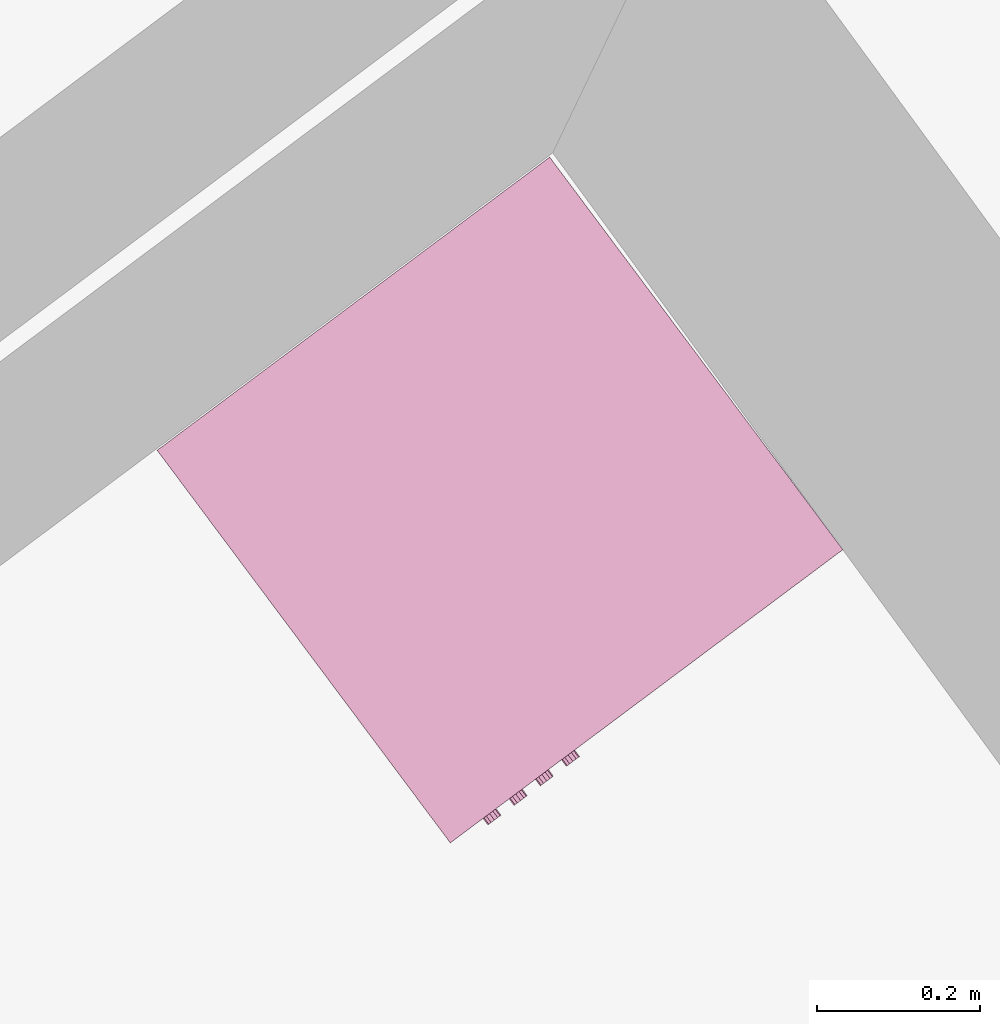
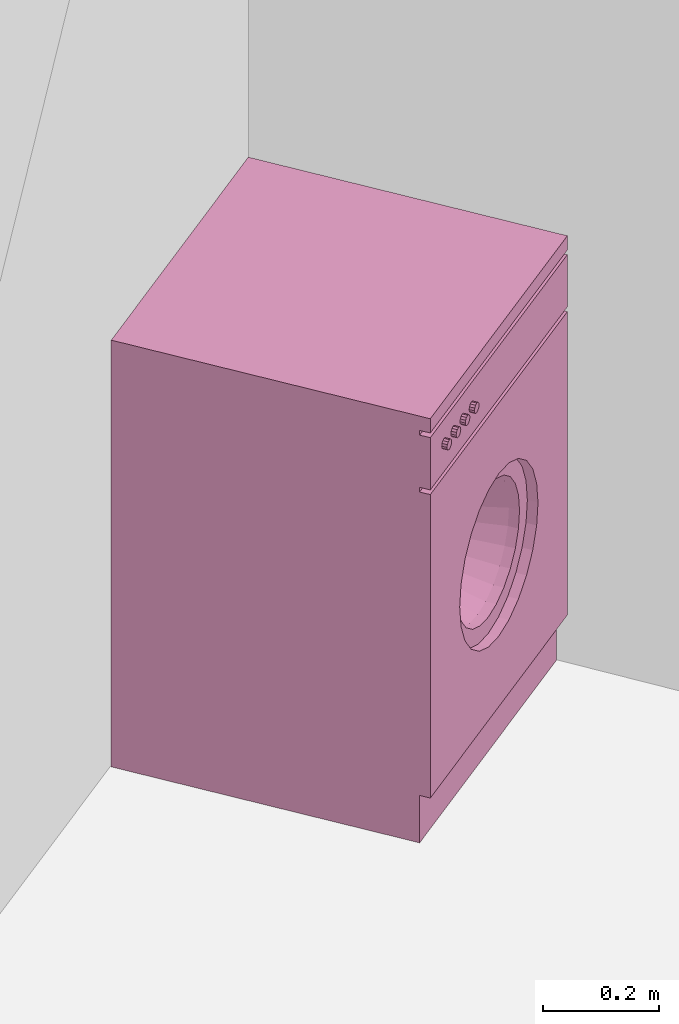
# One storey, part 101 of 121: 1 furnishing.
"""IFC2X3 building model written with IfcOpenShell, lengths in metres."""

from ifc_helpers import new_model, entity, si_unit, converted_unit, derived_unit, money_unit, direction, frame, origin_with_axes, place, context, subcontext, project, spatial, open_shell, faceted_brep, surface_model, source, transform, mapped, type_object, element, save


model = new_model("IFC2X3")

# Units and contexts
model_context = context("Model", 3, precision=1e-05, world=origin_with_axes(), true_north=direction((0.0, 1.0)))
body_context = subcontext(model_context, "Body", "Model", "MODEL_VIEW")
ifc_project = project(units=[si_unit("LENGTHUNIT", "METRE"), si_unit("AREAUNIT", "SQUARE_METRE"), si_unit("VOLUMEUNIT", "CUBIC_METRE"), converted_unit("PLANEANGLEUNIT", "DEGREE", entity("IfcPlaneAngleMeasure", 0.0174532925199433), si_unit("PLANEANGLEUNIT", "RADIAN"), dimensions=[0, 0, 0, 0, 0, 0, 0]), money_unit("CHF"), converted_unit("TIMEUNIT", "Year", entity("IfcTimeMeasure", 31557600.0), si_unit("TIMEUNIT", "SECOND"), dimensions=[0, 0, 1, 0, 0, 0, 0]), si_unit("MASSUNIT", "GRAM", prefix="KILO"), si_unit("THERMODYNAMICTEMPERATUREUNIT", "DEGREE_CELSIUS"), si_unit("LUMINOUSINTENSITYUNIT", "LUMEN"), si_unit("ENERGYUNIT", "JOULE", prefix="MEGA"), derived_unit("THERMALCONDUCTANCEUNIT", [(si_unit("POWERUNIT", "WATT"), 1), (si_unit("LENGTHUNIT", "METRE"), -1), (si_unit("THERMODYNAMICTEMPERATUREUNIT", "KELVIN"), -1)]), derived_unit("SPECIFICHEATCAPACITYUNIT", [(si_unit("ENERGYUNIT", "JOULE"), 1), (si_unit("MASSUNIT", "GRAM", prefix="KILO"), -1), (si_unit("THERMODYNAMICTEMPERATUREUNIT", "KELVIN"), -1)]), derived_unit("MASSDENSITYUNIT", [(si_unit("MASSUNIT", "GRAM", prefix="KILO"), 1), (si_unit("VOLUMEUNIT", "CUBIC_METRE"), -1)])], contexts=[model_context])

# Site, building, storey
site_placement = place(None, origin_with_axes())
site = spatial("IfcSite", under=ifc_project, at=site_placement, Name="Site", CompositionType="ELEMENT")
building_placement = place(site_placement, origin_with_axes())
building = spatial("IfcBuilding", under=site, at=building_placement, Name="Bâtiment", CompositionType="ELEMENT")
storey_placement = place(building_placement, frame((0.0, 0.0, 2.75), z_axis=(0.0, 0.0, 1.0), x_axis=(1.0, 0.0, 0.0)))
storey = spatial("IfcBuildingStorey", under=building, at=storey_placement, Name="Etage 1", CompositionType="ELEMENT", Elevation=2.75)

# Furnishing
furnishing_element_type = type_object("IfcFurnishingElementType", Name="Machine à laver")
shared_shape = source(origin_with_axes(), body_context, "Body", "SurfaceModel", [
    faceted_brep([(0.0, 0.02, 0.1), (0.6, 0.02, 0.1), (0.6, 0.0, 0.1), (0.0, 0.0, 0.1), (0.0, 0.02000000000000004, 0.74), (0.6, 0.02000000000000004, 0.74), (0.4714285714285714, 0.02000000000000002, 0.42), (0.4655872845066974, 0.02000000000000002, 0.4643689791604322), (0.448461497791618, 0.02000000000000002, 0.5057142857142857), (0.4212183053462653, 0.02000000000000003, 0.5412183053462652), (0.3857142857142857, 0.02000000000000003, 0.568461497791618), (0.3443689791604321, 0.02000000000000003, 0.5855872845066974), (0.3, 0.02000000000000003, 0.5914285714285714), (0.2556310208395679, 0.02000000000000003, 0.5855872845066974), (0.2142857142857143, 0.02000000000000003, 0.5684614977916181), (0.1787816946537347, 0.02000000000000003, 0.5412183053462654), (0.1515385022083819, 0.02000000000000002, 0.5057142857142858), (0.1344127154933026, 0.02000000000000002, 0.4643689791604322), (0.1285714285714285, 0.02000000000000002, 0.42), (0.1344127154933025, 0.02000000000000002, 0.3756310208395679), (0.1515385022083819, 0.02000000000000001, 0.3342857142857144), (0.1787816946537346, 0.02000000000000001, 0.2987816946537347), (0.2142857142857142, 0.02000000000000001, 0.2715385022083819), (0.2556310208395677, 0.02000000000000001, 0.2544127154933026), (0.2999999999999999, 0.02000000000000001, 0.2485714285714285), (0.344368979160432, 0.02000000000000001, 0.2544127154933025), (0.3857142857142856, 0.02000000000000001, 0.2715385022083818), (0.4212183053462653, 0.02000000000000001, 0.2987816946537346), (0.448461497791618, 0.02000000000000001, 0.3342857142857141), (0.4655872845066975, 0.02000000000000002, 0.3756310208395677), (0.6, 0.0, 0.74), (0.0, 0.0, 0.74), (0.4714285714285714, 0.0, 0.42), (0.4655872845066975, 0.0, 0.3756310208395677), (0.448461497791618, 0.0, 0.3342857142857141), (0.4212183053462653, 0.0, 0.2987816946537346), (0.3857142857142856, 0.0, 0.2715385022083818), (0.344368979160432, 0.0, 0.2544127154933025), (0.2999999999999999, 0.0, 0.2485714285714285), (0.2556310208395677, 0.0, 0.2544127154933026), (0.2142857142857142, 0.0, 0.2715385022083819), (0.1787816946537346, 0.0, 0.2987816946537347), (0.1515385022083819, 0.0, 0.3342857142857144), (0.1344127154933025, 0.0, 0.3756310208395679), (0.1285714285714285, 0.0, 0.42), (0.1344127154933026, 0.0, 0.4643689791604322), (0.1515385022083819, 0.0, 0.5057142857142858), (0.1787816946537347, 0.0, 0.5412183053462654), (0.2142857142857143, 0.0, 0.5684614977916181), (0.2556310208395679, 0.0, 0.5855872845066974), (0.3, 0.0, 0.5914285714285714), (0.3443689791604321, 0.0, 0.5855872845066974), (0.3857142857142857, 0.0, 0.568461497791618), (0.4212183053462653, 0.0, 0.5412183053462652), (0.448461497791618, 0.0, 0.5057142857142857), (0.4655872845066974, 0.0, 0.4643689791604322)], [[[0, 1, 2, 3]], [[0, 4, 5, 1], [6, 7, 8, 9, 10, 11, 12, 13, 14, 15, 16, 17, 18, 19, 20, 21, 22, 23, 24, 25, 26, 27, 28, 29]], [[1, 5, 30, 2]], [[3, 2, 30, 31], [32, 33, 34, 35, 36, 37, 38, 39, 40, 41, 42, 43, 44, 45, 46, 47, 48, 49, 50, 51, 52, 53, 54, 55]], [[4, 0, 3, 31]], [[5, 4, 31, 30]], [[7, 6, 32, 55]], [[8, 7, 55, 54]], [[9, 8, 54, 53]], [[10, 9, 53, 52]], [[11, 10, 52, 51]], [[12, 11, 51, 50]], [[13, 12, 50, 49]], [[14, 13, 49, 48]], [[15, 14, 48, 47]], [[16, 15, 47, 46]], [[17, 16, 46, 45]], [[18, 17, 45, 44]], [[19, 18, 44, 43]], [[20, 19, 43, 42]], [[21, 20, 42, 41]], [[22, 21, 41, 40]], [[23, 22, 40, 39]], [[24, 23, 39, 38]], [[25, 24, 38, 37]], [[26, 25, 37, 36]], [[27, 26, 36, 35]], [[28, 27, 35, 34]], [[29, 28, 34, 33]], [[6, 29, 33, 32]]]),
    faceted_brep([(0.4714285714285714, 0.04000000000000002, 0.42), (0.4655872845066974, 0.04000000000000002, 0.4643689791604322), (0.4655872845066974, 0.02000000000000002, 0.4643689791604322), (0.4714285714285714, 0.02000000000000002, 0.42), (0.4655872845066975, 0.04000000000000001, 0.3756310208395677), (0.448461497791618, 0.04000000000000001, 0.3342857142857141), (0.4212183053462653, 0.04000000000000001, 0.2987816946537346), (0.3857142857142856, 0.04000000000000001, 0.2715385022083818), (0.344368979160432, 0.04000000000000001, 0.2544127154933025), (0.2999999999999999, 0.04000000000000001, 0.2485714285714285), (0.2556310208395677, 0.04000000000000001, 0.2544127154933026), (0.2142857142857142, 0.04000000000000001, 0.2715385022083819), (0.1787816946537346, 0.04000000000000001, 0.2987816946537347), (0.1515385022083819, 0.04000000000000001, 0.3342857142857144), (0.1344127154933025, 0.04000000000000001, 0.3756310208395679), (0.1285714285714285, 0.04000000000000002, 0.42), (0.1344127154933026, 0.04000000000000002, 0.4643689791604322), (0.1515385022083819, 0.04000000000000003, 0.5057142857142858), (0.1787816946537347, 0.04000000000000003, 0.5412183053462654), (0.2142857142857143, 0.04000000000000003, 0.5684614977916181), (0.2556310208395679, 0.04000000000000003, 0.5855872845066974), (0.3, 0.04000000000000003, 0.5914285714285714), (0.3443689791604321, 0.04000000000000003, 0.5855872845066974), (0.3857142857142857, 0.04000000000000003, 0.568461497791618), (0.4212183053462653, 0.04000000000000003, 0.5412183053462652), (0.448461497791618, 0.04000000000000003, 0.5057142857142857), (0.4371428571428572, 0.04000000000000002, 0.42), (0.432469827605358, 0.04000000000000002, 0.4554951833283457), (0.4187691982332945, 0.04000000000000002, 0.4885714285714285), (0.3969746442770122, 0.04000000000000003, 0.5169746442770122), (0.3685714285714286, 0.04000000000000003, 0.5387691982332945), (0.3354951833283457, 0.04000000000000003, 0.552469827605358), (0.3, 0.04000000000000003, 0.5571428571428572), (0.2645048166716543, 0.04000000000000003, 0.552469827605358), (0.2314285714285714, 0.04000000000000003, 0.5387691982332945), (0.2030253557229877, 0.04000000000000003, 0.5169746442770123), (0.1812308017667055, 0.04000000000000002, 0.4885714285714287), (0.167530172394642, 0.04000000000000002, 0.4554951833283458), (0.1628571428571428, 0.04000000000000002, 0.42), (0.167530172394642, 0.04000000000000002, 0.3845048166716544), (0.1812308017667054, 0.04000000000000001, 0.3514285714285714), (0.2030253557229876, 0.04000000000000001, 0.3230253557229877), (0.2314285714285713, 0.04000000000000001, 0.3012308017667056), (0.2645048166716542, 0.04000000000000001, 0.287530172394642), (0.2999999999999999, 0.04000000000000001, 0.2828571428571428), (0.3354951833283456, 0.04000000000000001, 0.287530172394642), (0.3685714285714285, 0.04000000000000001, 0.3012308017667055), (0.3969746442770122, 0.04000000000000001, 0.3230253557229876), (0.4187691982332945, 0.04000000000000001, 0.3514285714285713), (0.432469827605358, 0.04000000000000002, 0.3845048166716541), (0.448461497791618, 0.02000000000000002, 0.5057142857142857), (0.4212183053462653, 0.02000000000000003, 0.5412183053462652), (0.3857142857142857, 0.02000000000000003, 0.568461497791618), (0.3443689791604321, 0.02000000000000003, 0.5855872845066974), (0.3, 0.02000000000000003, 0.5914285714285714), (0.2556310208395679, 0.02000000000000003, 0.5855872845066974), (0.2142857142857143, 0.02000000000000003, 0.5684614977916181), (0.1787816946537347, 0.02000000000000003, 0.5412183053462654), (0.1515385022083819, 0.02000000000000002, 0.5057142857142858), (0.1344127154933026, 0.02000000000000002, 0.4643689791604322), (0.1285714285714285, 0.02000000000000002, 0.42), (0.1344127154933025, 0.02000000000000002, 0.3756310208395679), (0.1515385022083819, 0.02000000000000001, 0.3342857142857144), (0.1787816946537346, 0.02000000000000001, 0.2987816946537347), (0.2142857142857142, 0.02000000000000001, 0.2715385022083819), (0.2556310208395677, 0.02000000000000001, 0.2544127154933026), (0.2999999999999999, 0.02000000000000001, 0.2485714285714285), (0.344368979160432, 0.02000000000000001, 0.2544127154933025), (0.3857142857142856, 0.02000000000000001, 0.2715385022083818), (0.4212183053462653, 0.02000000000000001, 0.2987816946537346), (0.448461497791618, 0.02000000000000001, 0.3342857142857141), (0.4655872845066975, 0.02000000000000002, 0.3756310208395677), (0.4371428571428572, 0.02000000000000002, 0.42), (0.432469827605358, 0.02000000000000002, 0.3845048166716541), (0.4187691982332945, 0.02000000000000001, 0.3514285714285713), (0.3969746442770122, 0.02000000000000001, 0.3230253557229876), (0.3685714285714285, 0.02000000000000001, 0.3012308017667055), (0.3354951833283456, 0.02000000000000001, 0.287530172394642), (0.2999999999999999, 0.02000000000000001, 0.2828571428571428), (0.2645048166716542, 0.02000000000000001, 0.287530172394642), (0.2314285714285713, 0.02000000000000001, 0.3012308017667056), (0.2030253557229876, 0.02000000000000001, 0.3230253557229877), (0.1812308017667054, 0.02000000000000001, 0.3514285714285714), (0.167530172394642, 0.02000000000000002, 0.3845048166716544), (0.1628571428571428, 0.02000000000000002, 0.42), (0.167530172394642, 0.02000000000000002, 0.4554951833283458), (0.1812308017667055, 0.02000000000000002, 0.4885714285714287), (0.2030253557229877, 0.02000000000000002, 0.5169746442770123), (0.2314285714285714, 0.02000000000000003, 0.5387691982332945), (0.2645048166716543, 0.02000000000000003, 0.552469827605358), (0.3, 0.02000000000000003, 0.5571428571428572), (0.3354951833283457, 0.02000000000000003, 0.552469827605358), (0.3685714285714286, 0.02000000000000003, 0.5387691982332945), (0.3969746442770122, 0.02000000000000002, 0.5169746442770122), (0.4187691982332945, 0.02000000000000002, 0.4885714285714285), (0.432469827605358, 0.02000000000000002, 0.4554951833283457)], [[[0, 1, 2, 3]], [[0, 4, 5, 6, 7, 8, 9, 10, 11, 12, 13, 14, 15, 16, 17, 18, 19, 20, 21, 22, 23, 24, 25, 1], [26, 27, 28, 29, 30, 31, 32, 33, 34, 35, 36, 37, 38, 39, 40, 41, 42, 43, 44, 45, 46, 47, 48, 49]], [[1, 25, 50, 2]], [[3, 2, 50, 51, 52, 53, 54, 55, 56, 57, 58, 59, 60, 61, 62, 63, 64, 65, 66, 67, 68, 69, 70, 71], [72, 73, 74, 75, 76, 77, 78, 79, 80, 81, 82, 83, 84, 85, 86, 87, 88, 89, 90, 91, 92, 93, 94, 95]], [[4, 0, 3, 71]], [[5, 4, 71, 70]], [[6, 5, 70, 69]], [[7, 6, 69, 68]], [[8, 7, 68, 67]], [[9, 8, 67, 66]], [[10, 9, 66, 65]], [[11, 10, 65, 64]], [[12, 11, 64, 63]], [[13, 12, 63, 62]], [[14, 13, 62, 61]], [[15, 14, 61, 60]], [[16, 15, 60, 59]], [[17, 16, 59, 58]], [[18, 17, 58, 57]], [[19, 18, 57, 56]], [[20, 19, 56, 55]], [[21, 20, 55, 54]], [[22, 21, 54, 53]], [[23, 22, 53, 52]], [[24, 23, 52, 51]], [[25, 24, 51, 50]], [[27, 26, 72, 95]], [[28, 27, 95, 94]], [[29, 28, 94, 93]], [[30, 29, 93, 92]], [[31, 30, 92, 91]], [[32, 31, 91, 90]], [[33, 32, 90, 89]], [[34, 33, 89, 88]], [[35, 34, 88, 87]], [[36, 35, 87, 86]], [[37, 36, 86, 85]], [[38, 37, 85, 84]], [[39, 38, 84, 83]], [[40, 39, 83, 82]], [[41, 40, 82, 81]], [[42, 41, 81, 80]], [[43, 42, 80, 79]], [[44, 43, 79, 78]], [[45, 44, 78, 77]], [[46, 45, 77, 76]], [[47, 46, 76, 75]], [[48, 47, 75, 74]], [[49, 48, 74, 73]], [[26, 49, 73, 72]]]),
    surface_model("IfcShellBasedSurfaceModel", [(0.2645048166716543, 0.03999999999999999, 0.552469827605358), (0.3, 0.03999999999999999, 0.5571428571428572), (0.3, 0.14, 0.5228571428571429), (0.2733786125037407, 0.14, 0.5193523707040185), (0.3354951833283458, 0.03999999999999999, 0.552469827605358), (0.3266213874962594, 0.14, 0.5193523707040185), (0.3514285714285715, 0.14, 0.5090768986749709), (0.3727309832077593, 0.14, 0.4927309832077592), (0.3890768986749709, 0.14, 0.4714285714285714), (0.3993523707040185, 0.14, 0.4466213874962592), (0.4028571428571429, 0.14, 0.42), (0.3993523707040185, 0.14, 0.3933786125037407), (0.3890768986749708, 0.14, 0.3685714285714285), (0.3727309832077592, 0.14, 0.3472690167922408), (0.3514285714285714, 0.14, 0.3309231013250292), (0.3266213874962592, 0.14, 0.3206476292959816), (0.2999999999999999, 0.14, 0.3171428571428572), (0.2733786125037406, 0.14, 0.3206476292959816), (0.2485714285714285, 0.14, 0.3309231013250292), (0.2272690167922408, 0.14, 0.3472690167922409), (0.2109231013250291, 0.14, 0.3685714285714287), (0.2006476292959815, 0.14, 0.3933786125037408), (0.1971428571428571, 0.14, 0.4200000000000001), (0.2006476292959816, 0.14, 0.4466213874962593), (0.2109231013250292, 0.14, 0.4714285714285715), (0.2272690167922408, 0.14, 0.4927309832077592), (0.2485714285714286, 0.14, 0.5090768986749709), (0.2314285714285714, 0.03999999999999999, 0.5387691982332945), (0.3685714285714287, 0.03999999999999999, 0.5387691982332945), (0.3969746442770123, 0.03999999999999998, 0.5169746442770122), (0.4187691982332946, 0.03999999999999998, 0.4885714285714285), (0.432469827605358, 0.03999999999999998, 0.4554951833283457), (0.4371428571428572, 0.03999999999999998, 0.4199999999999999), (0.432469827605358, 0.03999999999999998, 0.3845048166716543), (0.4187691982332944, 0.03999999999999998, 0.3514285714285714), (0.3969746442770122, 0.03999999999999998, 0.3230253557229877), (0.3685714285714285, 0.03999999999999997, 0.3012308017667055), (0.3354951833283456, 0.03999999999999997, 0.2875301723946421), (0.2999999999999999, 0.03999999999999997, 0.2828571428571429), (0.2645048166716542, 0.03999999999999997, 0.2875301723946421), (0.2314285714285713, 0.03999999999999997, 0.3012308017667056), (0.2030253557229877, 0.03999999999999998, 0.3230253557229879), (0.1812308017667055, 0.03999999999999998, 0.3514285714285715), (0.167530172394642, 0.03999999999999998, 0.3845048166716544), (0.1628571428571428, 0.03999999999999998, 0.4200000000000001), (0.167530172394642, 0.03999999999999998, 0.4554951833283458), (0.1812308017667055, 0.03999999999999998, 0.4885714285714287), (0.2030253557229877, 0.03999999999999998, 0.5169746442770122)], [open_shell([[[0, 1, 2, 3]], [[1, 4, 5, 2]], [[2, 5, 6, 7, 8, 9, 10, 11, 12, 13, 14, 15, 16, 17, 18, 19, 20, 21, 22, 23, 24, 25, 26, 3]], [[27, 0, 3, 26]], [[4, 28, 6, 5]], [[28, 29, 7, 6]], [[29, 30, 8, 7]], [[30, 31, 9, 8]], [[31, 32, 10, 9]], [[32, 33, 11, 10]], [[33, 34, 12, 11]], [[34, 35, 13, 12]], [[35, 36, 14, 13]], [[36, 37, 15, 14]], [[37, 38, 16, 15]], [[38, 39, 17, 16]], [[39, 40, 18, 17]], [[40, 41, 19, 18]], [[41, 42, 20, 19]], [[42, 43, 21, 20]], [[43, 44, 22, 21]], [[44, 45, 23, 22]], [[45, 46, 24, 23]], [[46, 47, 25, 24]], [[47, 27, 26, 25]]])]),
    surface_model("IfcShellBasedSurfaceModel", [(0.0, 0.02, 0.1), (0.0, 0.02000000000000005, 0.87), (0.0, 0.6, 0.87), (0.0, 0.6, 0.09999999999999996)], [open_shell([[[0, 1, 2, 3]]])]),
    surface_model("IfcShellBasedSurfaceModel", [(0.6, 0.01999999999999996, 0.1), (0.6, 0.02000000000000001, 0.87), (0.6, 0.5999999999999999, 0.87), (0.6, 0.5999999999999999, 0.09999999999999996)], [open_shell([[[0, 1, 2, 3]]])]),
    surface_model("IfcShellBasedSurfaceModel", [(0.0, 0.6, 0.1), (0.0, 0.6, 0.87), (0.6, 0.6, 0.87), (0.6, 0.6, 0.1)], [open_shell([[[0, 1, 2, 3]]])]),
    faceted_brep([(0.0, 0.02, 0.0), (0.6, 0.02, 0.0), (0.6, 0.02, 0.1), (0.0, 0.02, 0.1), (0.0, 0.6, 0.0), (0.6, 0.6, 0.0), (0.6, 0.6, 0.1), (0.0, 0.6, 0.1)], [[[0, 1, 2, 3]], [[0, 4, 5, 1]], [[1, 5, 6, 2]], [[3, 2, 6, 7]], [[4, 0, 3, 7]], [[5, 4, 7, 6]]]),
    faceted_brep([(0.0, 0.02, 0.75), (0.6, 0.02, 0.75), (0.6, 0.0, 0.75), (0.0, 0.0, 0.75), (0.0, 0.02000000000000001, 0.86), (0.6, 0.02000000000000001, 0.86), (0.6, 0.0, 0.86), (0.0, 0.0, 0.86)], [[[0, 1, 2, 3]], [[0, 4, 5, 1]], [[1, 5, 6, 2]], [[3, 2, 6, 7]], [[4, 0, 3, 7]], [[5, 4, 7, 6]]]),
    surface_model("IfcShellBasedSurfaceModel", [(0.0, 0.02, 0.74), (0.0, 0.02000000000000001, 0.87), (0.6, 0.02000000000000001, 0.87), (0.6, 0.02, 0.74)], [open_shell([[[0, 1, 2, 3]]])]),
    faceted_brep([(0.0, 0.0, 0.87), (0.6, 0.0, 0.87), (0.6, 0.0, 0.9), (0.0, 0.0, 0.9), (0.0, 0.6, 0.87), (0.6, 0.6, 0.87), (0.6, 0.6, 0.9), (0.0, 0.6, 0.9)], [[[0, 1, 2, 3]], [[0, 4, 5, 1]], [[1, 5, 6, 2]], [[3, 2, 6, 7]], [[4, 0, 3, 7]], [[5, 4, 7, 6]]]),
    faceted_brep([(0.06866025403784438, 0.0, 0.8049999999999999), (0.06499999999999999, 0.0, 0.8013397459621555), (0.05999999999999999, 0.0, 0.7999999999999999), (0.05499999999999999, 0.0, 0.8013397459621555), (0.05133974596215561, 0.0, 0.8049999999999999), (0.05, 0.0, 0.8099999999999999), (0.05133974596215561, 0.0, 0.815), (0.055, 0.0, 0.8186602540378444), (0.06, 0.0, 0.82), (0.065, 0.0, 0.8186602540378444), (0.06866025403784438, 0.0, 0.815), (0.06999999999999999, 0.0, 0.8099999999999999), (0.06866025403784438, -0.01, 0.8049999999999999), (0.06499999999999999, -0.01, 0.8013397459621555), (0.05999999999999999, -0.01, 0.7999999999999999), (0.05499999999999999, -0.01, 0.8013397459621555), (0.05133974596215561, -0.01, 0.8049999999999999), (0.05, -0.01, 0.8099999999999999), (0.05133974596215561, -0.01, 0.815), (0.055, -0.01, 0.8186602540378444), (0.06, -0.01, 0.82), (0.065, -0.01, 0.8186602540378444), (0.06866025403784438, -0.01, 0.815), (0.06999999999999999, -0.01, 0.8099999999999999)], [[[0, 1, 2, 3, 4, 5, 6, 7, 8, 9, 10, 11]], [[1, 0, 12, 13]], [[2, 1, 13, 14]], [[3, 2, 14, 15]], [[4, 3, 15, 16]], [[5, 4, 16, 17]], [[6, 5, 17, 18]], [[7, 6, 18, 19]], [[8, 7, 19, 20]], [[9, 8, 20, 21]], [[10, 9, 21, 22]], [[11, 10, 22, 23]], [[0, 11, 23, 12]], [[12, 23, 22, 21, 20, 19, 18, 17, 16, 15, 14, 13]]]),
    faceted_brep([(0.1086602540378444, 0.0, 0.8049999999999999), (0.105, 0.0, 0.8013397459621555), (0.09999999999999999, 0.0, 0.7999999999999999), (0.095, 0.0, 0.8013397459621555), (0.09133974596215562, 0.0, 0.8049999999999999), (0.09000000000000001, 0.0, 0.8099999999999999), (0.09133974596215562, 0.0, 0.815), (0.095, 0.0, 0.8186602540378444), (0.1, 0.0, 0.82), (0.105, 0.0, 0.8186602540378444), (0.1086602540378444, 0.0, 0.815), (0.11, 0.0, 0.8099999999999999), (0.1086602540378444, -0.01, 0.8049999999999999), (0.105, -0.01, 0.8013397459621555), (0.09999999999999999, -0.01, 0.7999999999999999), (0.095, -0.01, 0.8013397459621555), (0.09133974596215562, -0.01, 0.8049999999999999), (0.09000000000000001, -0.01, 0.8099999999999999), (0.09133974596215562, -0.01, 0.815), (0.095, -0.01, 0.8186602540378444), (0.1, -0.01, 0.82), (0.105, -0.01, 0.8186602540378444), (0.1086602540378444, -0.01, 0.815), (0.11, -0.01, 0.8099999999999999)], [[[0, 1, 2, 3, 4, 5, 6, 7, 8, 9, 10, 11]], [[1, 0, 12, 13]], [[2, 1, 13, 14]], [[3, 2, 14, 15]], [[4, 3, 15, 16]], [[5, 4, 16, 17]], [[6, 5, 17, 18]], [[7, 6, 18, 19]], [[8, 7, 19, 20]], [[9, 8, 20, 21]], [[10, 9, 21, 22]], [[11, 10, 22, 23]], [[0, 11, 23, 12]], [[12, 23, 22, 21, 20, 19, 18, 17, 16, 15, 14, 13]]]),
    faceted_brep([(0.1486602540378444, 0.0, 0.8049999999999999), (0.145, 0.0, 0.8013397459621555), (0.14, 0.0, 0.7999999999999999), (0.135, 0.0, 0.8013397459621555), (0.1313397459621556, 0.0, 0.8049999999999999), (0.13, 0.0, 0.8099999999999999), (0.1313397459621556, 0.0, 0.815), (0.135, 0.0, 0.8186602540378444), (0.14, 0.0, 0.82), (0.145, 0.0, 0.8186602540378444), (0.1486602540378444, 0.0, 0.815), (0.15, 0.0, 0.8099999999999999), (0.1486602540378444, -0.01, 0.8049999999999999), (0.145, -0.01, 0.8013397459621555), (0.14, -0.01, 0.7999999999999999), (0.135, -0.01, 0.8013397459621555), (0.1313397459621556, -0.01, 0.8049999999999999), (0.13, -0.01, 0.8099999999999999), (0.1313397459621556, -0.01, 0.815), (0.135, -0.01, 0.8186602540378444), (0.14, -0.01, 0.82), (0.145, -0.01, 0.8186602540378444), (0.1486602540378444, -0.01, 0.815), (0.15, -0.01, 0.8099999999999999)], [[[0, 1, 2, 3, 4, 5, 6, 7, 8, 9, 10, 11]], [[1, 0, 12, 13]], [[2, 1, 13, 14]], [[3, 2, 14, 15]], [[4, 3, 15, 16]], [[5, 4, 16, 17]], [[6, 5, 17, 18]], [[7, 6, 18, 19]], [[8, 7, 19, 20]], [[9, 8, 20, 21]], [[10, 9, 21, 22]], [[11, 10, 22, 23]], [[0, 11, 23, 12]], [[12, 23, 22, 21, 20, 19, 18, 17, 16, 15, 14, 13]]]),
    faceted_brep([(0.1886602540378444, 0.0, 0.8049999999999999), (0.185, 0.0, 0.8013397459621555), (0.18, 0.0, 0.7999999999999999), (0.175, 0.0, 0.8013397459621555), (0.1713397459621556, 0.0, 0.8049999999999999), (0.17, 0.0, 0.8099999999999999), (0.1713397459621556, 0.0, 0.815), (0.175, 0.0, 0.8186602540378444), (0.18, 0.0, 0.82), (0.185, 0.0, 0.8186602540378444), (0.1886602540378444, 0.0, 0.815), (0.19, 0.0, 0.8099999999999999), (0.1886602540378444, -0.01, 0.8049999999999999), (0.185, -0.01, 0.8013397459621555), (0.18, -0.01, 0.7999999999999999), (0.175, -0.01, 0.8013397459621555), (0.1713397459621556, -0.01, 0.8049999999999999), (0.17, -0.01, 0.8099999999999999), (0.1713397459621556, -0.01, 0.815), (0.175, -0.01, 0.8186602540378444), (0.18, -0.01, 0.82), (0.185, -0.01, 0.8186602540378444), (0.1886602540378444, -0.01, 0.815), (0.19, -0.01, 0.8099999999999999)], [[[0, 1, 2, 3, 4, 5, 6, 7, 8, 9, 10, 11]], [[1, 0, 12, 13]], [[2, 1, 13, 14]], [[3, 2, 14, 15]], [[4, 3, 15, 16]], [[5, 4, 16, 17]], [[6, 5, 17, 18]], [[7, 6, 18, 19]], [[8, 7, 19, 20]], [[9, 8, 20, 21]], [[10, 9, 21, 22]], [[11, 10, 22, 23]], [[0, 11, 23, 12]], [[12, 23, 22, 21, 20, 19, 18, 17, 16, 15, 14, 13]]]),
])
furnishing_placement = place(storey_placement, frame((9537.196808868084, -1070.958875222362, 57.7), z_axis=(0.0, 0.0, 1.0), x_axis=(0.8012033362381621, 0.5983921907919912, 0.0)))
element("IfcFurnishingElement", 1, at=furnishing_placement, inside=storey, type_object=furnishing_element_type, Name="Obj.-019", context=body_context, shape_type="MappedRepresentation", body=[
    mapped(shared_shape, transform((0.0, 0.0, 0.0))),
])

save(model, "model.ifc")
